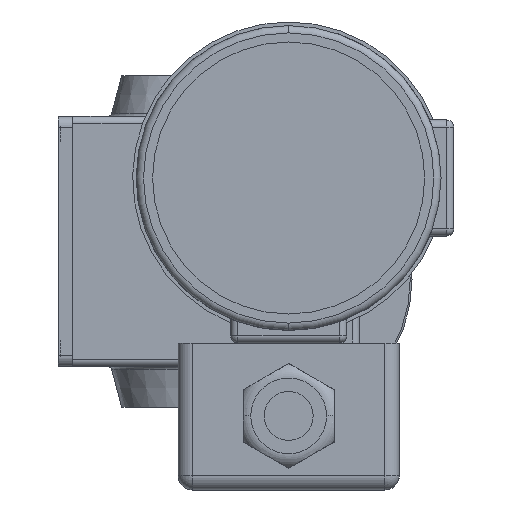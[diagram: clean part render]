
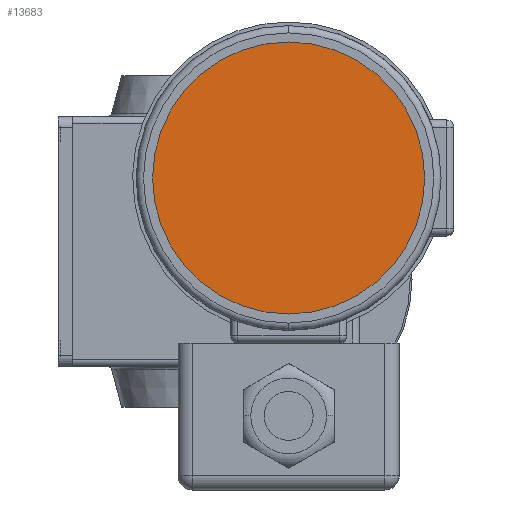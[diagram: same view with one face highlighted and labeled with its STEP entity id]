
A CAD part, left-side view. The second image highlights one B-rep face of the part: STEP entity #13683.
In plain terms, the highlighted planar face has unit normal (-1, 0, 0).
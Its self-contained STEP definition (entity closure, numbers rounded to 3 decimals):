
#256 = CARTESIAN_POINT ( 'NONE',  ( 0., 0., 0. ) ) ;
#877 = DIRECTION ( 'NONE',  ( 0., 0., -1. ) ) ;
#1151 = CARTESIAN_POINT ( 'NONE',  ( 0., 0., 37.5 ) ) ;
#1495 = AXIS2_PLACEMENT_3D ( 'NONE', #14282, #3676, #877 ) ;
#2220 = AXIS2_PLACEMENT_3D ( 'NONE', #256, #2955, #5503 ) ;
#2759 = DIRECTION ( 'NONE',  ( -1., 0., 0. ) ) ;
#2955 = DIRECTION ( 'NONE',  ( -1., 0., 0. ) ) ;
#3676 = DIRECTION ( 'NONE',  ( 1., 0., 0. ) ) ;
#4734 = AXIS2_PLACEMENT_3D ( 'NONE', #14949, #2759, #6800 ) ;
#4973 = PLANE ( 'NONE',  #1495 ) ;
#5035 = CARTESIAN_POINT ( 'NONE',  ( 0., 0., -37.5 ) ) ;
#5503 = DIRECTION ( 'NONE',  ( 0., 0., 1. ) ) ;
#6800 = DIRECTION ( 'NONE',  ( 0., 0., 1. ) ) ;
#8499 = EDGE_CURVE ( 'NONE', #13008, #16676, #14561, .T. ) ;
#9145 = EDGE_CURVE ( 'NONE', #16676, #13008, #14542, .T. ) ;
#11147 = ORIENTED_EDGE ( 'NONE', *, *, #9145, .T. ) ;
#13008 = VERTEX_POINT ( 'NONE', #5035 ) ;
#13683 = ADVANCED_FACE ( 'NONE', ( #15431 ), #4973, .F. ) ;
#14282 = CARTESIAN_POINT ( 'NONE',  ( 0., 0., 0. ) ) ;
#14542 = CIRCLE ( 'NONE', #2220, 37.5 ) ;
#14561 = CIRCLE ( 'NONE', #4734, 37.5 ) ;
#14913 = EDGE_LOOP ( 'NONE', ( #11147, #16255 ) ) ;
#14949 = CARTESIAN_POINT ( 'NONE',  ( 0., 0., 0. ) ) ;
#15431 = FACE_OUTER_BOUND ( 'NONE', #14913, .T. ) ;
#16255 = ORIENTED_EDGE ( 'NONE', *, *, #8499, .T. ) ;
#16676 = VERTEX_POINT ( 'NONE', #1151 ) ;
